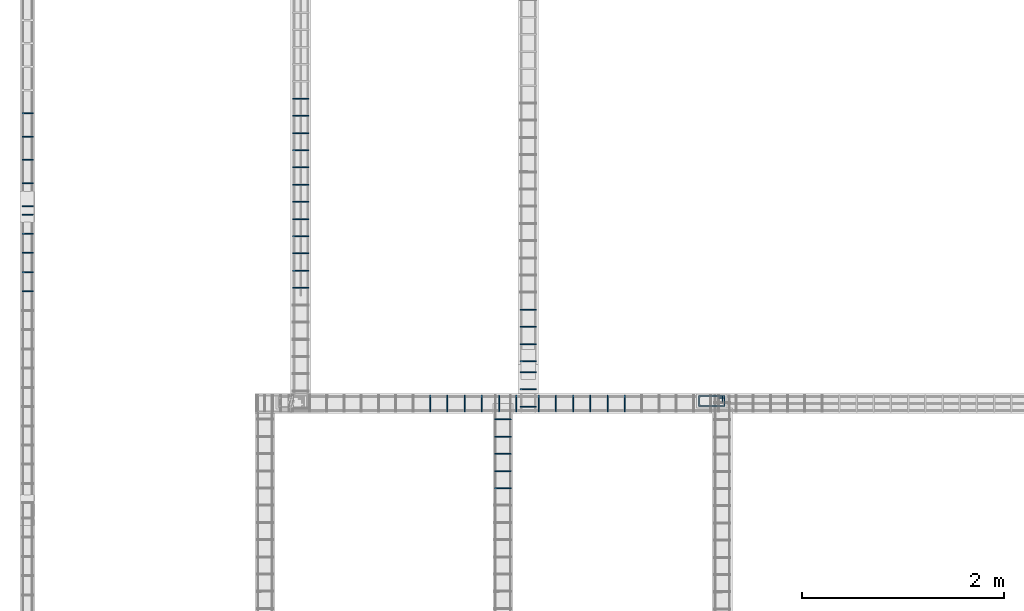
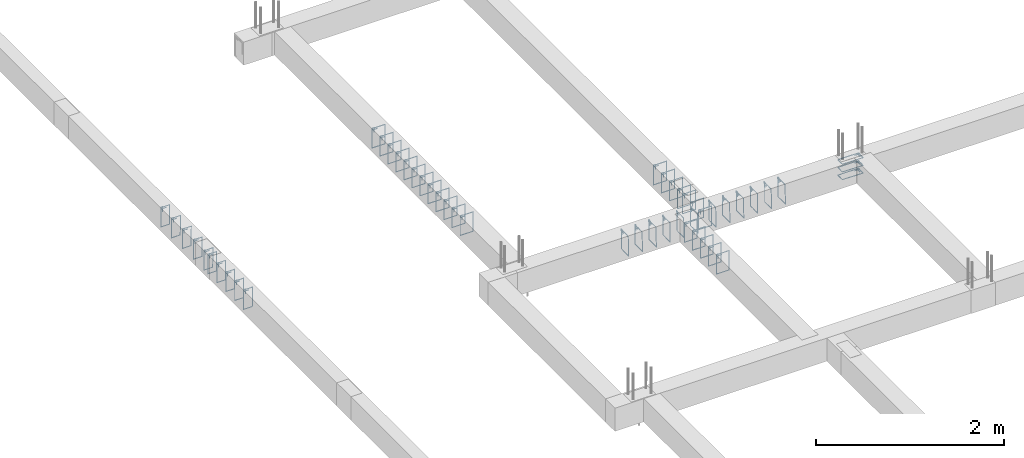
# One storey, part 30 of 150: 49 reinforcing bars.
"""IFC4 building model written with IfcOpenShell, lengths in centimetres."""

from ifc_helpers import new_model, entity, si_unit, derived_unit, frame, origin_with_axes, place, context, project, spatial, source, transform, mapped, element, save


model = new_model("IFC4")

# Units and contexts
model_context = context("Model", 3, precision=1e-05, world=origin_with_axes(), identifier="Body")
ifc_project = project(units=[si_unit("LENGTHUNIT", "METRE", prefix="CENTI"), si_unit("VOLUMEUNIT", "CUBIC_METRE"), si_unit("AREAUNIT", "SQUARE_METRE"), si_unit("POWERUNIT", "WATT"), si_unit("LUMINOUSFLUXUNIT", "LUMEN"), si_unit("ELECTRICCURRENTUNIT", "AMPERE"), si_unit("PRESSUREUNIT", "PASCAL", prefix="KILO"), si_unit("MASSUNIT", "GRAM", prefix="KILO"), si_unit("PLANEANGLEUNIT", "RADIAN"), derived_unit("VOLUMETRICFLOWRATEUNIT", [(si_unit("LENGTHUNIT", "METRE"), 3), (si_unit("TIMEUNIT", "SECOND"), -1)])], contexts=[model_context])

# Site, building, storey
site_placement = place(None, frame((-4000.0, 0.0, 0.0), z_axis=(0.0, 0.0, 1.0), x_axis=(1.0, 0.0, 0.0)))
site = spatial("IfcSite", under=ifc_project, at=site_placement, Name="PADRÃO")
building_placement = place(site_placement, frame((0.0, 0.0, -14.0)))
building = spatial("IfcBuilding", under=site, at=building_placement, Name="CRECHE PRÉ-ESCOLA TIPO 2")
placement = place(building_placement, origin_with_axes())
storey_placement = place(placement, frame((0.0, 0.0, 30.0), z_axis=(0.0, 0.0, 1.0), x_axis=(1.0, 0.0, 0.0)))
storey = spatial("IfcBuildingStorey", under=building, at=storey_placement, Name="VIGA BALDRAME", CompositionType="ELEMENT", Elevation=16.0)

# Reinforcing bars
shared_shape_1 = source(origin_with_axes(), model_context, "Body", "AdvancedSweptSolid", [
    entity("IfcSweptDiskSolid", entity("IfcCompositeCurve", [entity("IfcCompositeCurveSegment", "CONTINUOUS", True, entity("IfcPolyline", [entity("IfcCartesianPoint", [4.25, 21.75, 0.0]), entity("IfcCartesianPoint", [4.25, 27.75, 0.0])])), entity("IfcCompositeCurveSegment", "CONTINUOUS", True, entity("IfcPolyline", [entity("IfcCartesianPoint", [4.25, 27.75, 0.0]), entity("IfcCartesianPoint", [2.25, 27.75, 0.0])])), entity("IfcCompositeCurveSegment", "CONTINUOUS", True, entity("IfcPolyline", [entity("IfcCartesianPoint", [2.25, 27.75, 0.0]), entity("IfcCartesianPoint", [2.25, 2.25, 0.0])])), entity("IfcCompositeCurveSegment", "CONTINUOUS", True, entity("IfcPolyline", [entity("IfcCartesianPoint", [2.25, 2.25, 0.0]), entity("IfcCartesianPoint", [11.75, 2.25, 0.0])])), entity("IfcCompositeCurveSegment", "CONTINUOUS", True, entity("IfcPolyline", [entity("IfcCartesianPoint", [11.75, 2.25, 0.0]), entity("IfcCartesianPoint", [11.75, 27.75, -0.5])])), entity("IfcCompositeCurveSegment", "CONTINUOUS", True, entity("IfcPolyline", [entity("IfcCartesianPoint", [11.75, 27.75, -0.5]), entity("IfcCartesianPoint", [2.25, 27.75, -0.5])])), entity("IfcCompositeCurveSegment", "CONTINUOUS", True, entity("IfcPolyline", [entity("IfcCartesianPoint", [2.25, 27.75, -0.5]), entity("IfcCartesianPoint", [2.25, 25.75, -0.5])])), entity("IfcCompositeCurveSegment", "CONTINUOUS", True, entity("IfcPolyline", [entity("IfcCartesianPoint", [2.25, 25.75, -0.5]), entity("IfcCartesianPoint", [8.25, 25.75, -0.5])]))], False), 0.25),
])
for number, where, z_axis, x_axis, name in (
    (1, (670.0, 1309.5, -25.0), (0.0, 0.0, 1.0), (0.0, -1.0, 0.0), "P108 - Estribo"),
    (2, (670.0, 1309.5, -15.0), (0.0, 0.0, 1.0), (0.0, -1.0, 0.0), "P108 - Estribo"),
    (3, (670.0, 1309.5, -5.0), (0.0, 0.0, 1.0), (0.0, -1.0, 0.0), "P108 - Estribo"),
):
    element("IfcReinforcingBar", number, at=place(storey_placement, frame(where, z_axis=z_axis, x_axis=x_axis)), inside=storey, Name=name, BarLength=0.0, CrossSectionArea=1.9634954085e-05, NominalDiameter=0.5, PredefinedType="MAIN", context=model_context, shape_type="MappedRepresentation", body=[
        mapped(shared_shape_1, transform((0.0, 0.0, 0.0), scale=1.0)),
    ])
shared_shape_2 = source(origin_with_axes(), model_context, "Body", "AdvancedSweptSolid", [
    entity("IfcSweptDiskSolid", entity("IfcCompositeCurve", [entity("IfcCompositeCurveSegment", "CONTINUOUS", True, entity("IfcPolyline", [entity("IfcCartesianPoint", [2.0, -6.0, 0.0]), entity("IfcCartesianPoint", [2.0, 0.0, 0.0])])), entity("IfcCompositeCurveSegment", "CONTINUOUS", True, entity("IfcPolyline", [entity("IfcCartesianPoint", [2.0, 0.0, 0.0]), entity("IfcCartesianPoint", [0.0, 0.0, 0.0])])), entity("IfcCompositeCurveSegment", "CONTINUOUS", True, entity("IfcPolyline", [entity("IfcCartesianPoint", [0.0, 0.0, 0.0]), entity("IfcCartesianPoint", [0.0, -25.5, 0.0])])), entity("IfcCompositeCurveSegment", "CONTINUOUS", True, entity("IfcPolyline", [entity("IfcCartesianPoint", [0.0, -25.5, 0.0]), entity("IfcCartesianPoint", [15.5, -25.5, 0.0])])), entity("IfcCompositeCurveSegment", "CONTINUOUS", True, entity("IfcPolyline", [entity("IfcCartesianPoint", [15.5, -25.5, 0.0]), entity("IfcCartesianPoint", [15.5, 0.0, 0.5])])), entity("IfcCompositeCurveSegment", "CONTINUOUS", True, entity("IfcPolyline", [entity("IfcCartesianPoint", [15.5, 0.0, 0.5]), entity("IfcCartesianPoint", [0.0, 0.0, 0.5])])), entity("IfcCompositeCurveSegment", "CONTINUOUS", True, entity("IfcPolyline", [entity("IfcCartesianPoint", [0.0, 0.0, 0.5]), entity("IfcCartesianPoint", [0.0, -2.0, 0.5])])), entity("IfcCompositeCurveSegment", "CONTINUOUS", True, entity("IfcPolyline", [entity("IfcCartesianPoint", [0.0, -2.0, 0.5]), entity("IfcCartesianPoint", [6.0, -2.0, 0.5])]))], False), 0.25),
])
for number, where, z_axis, x_axis, name in (
    (4, (458.095, 1307.75, -2.25), (-1.0, 0.0, 0.0), (0.0, -1.0, 0.0), "V136 - Estribo"),
    (5, (441.095, 1307.75, -2.25), (-1.0, 0.0, 0.0), (0.0, -1.0, 0.0), "V136 - Estribo"),
    (6, (424.095, 1307.75, -2.25), (-1.0, 0.0, 0.0), (0.0, -1.0, 0.0), "V136 - Estribo"),
    (7, (407.095, 1307.75, -2.25), (-1.0, 0.0, 0.0), (0.0, -1.0, 0.0), "V136 - Estribo"),
    (8, (492.095, 1307.75, -2.25), (-1.0, 0.0, 0.0), (0.0, -1.0, 0.0), "V136 - Estribo"),
    (9, (475.095, 1307.75, -2.25), (-1.0, 0.0, 0.0), (0.0, -1.0, 0.0), "V136 - Estribo"),
):
    element("IfcReinforcingBar", number, at=place(storey_placement, frame(where, z_axis=z_axis, x_axis=x_axis)), inside=storey, Name=name, BarLength=0.0, CrossSectionArea=1.9634954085e-05, NominalDiameter=0.5, PredefinedType="MAIN", context=model_context, shape_type="MappedRepresentation", body=[
        mapped(shared_shape_2, transform((0.0, 0.0, 0.0), scale=1.0)),
    ])
shared_shape_3 = source(origin_with_axes(), model_context, "Body", "AdvancedSweptSolid", [
    entity("IfcSweptDiskSolid", entity("IfcCompositeCurve", [entity("IfcCompositeCurveSegment", "CONTINUOUS", True, entity("IfcPolyline", [entity("IfcCartesianPoint", [2.0, -6.0, 0.0]), entity("IfcCartesianPoint", [2.0, 0.0, 0.0])])), entity("IfcCompositeCurveSegment", "CONTINUOUS", True, entity("IfcPolyline", [entity("IfcCartesianPoint", [2.0, 0.0, 0.0]), entity("IfcCartesianPoint", [0.0, 0.0, 0.0])])), entity("IfcCompositeCurveSegment", "CONTINUOUS", True, entity("IfcPolyline", [entity("IfcCartesianPoint", [0.0, 0.0, 0.0]), entity("IfcCartesianPoint", [0.0, -25.5, 0.0])])), entity("IfcCompositeCurveSegment", "CONTINUOUS", True, entity("IfcPolyline", [entity("IfcCartesianPoint", [0.0, -25.5, 0.0]), entity("IfcCartesianPoint", [15.5, -25.5, 0.0])])), entity("IfcCompositeCurveSegment", "CONTINUOUS", True, entity("IfcPolyline", [entity("IfcCartesianPoint", [15.5, -25.5, 0.0]), entity("IfcCartesianPoint", [15.5, 0.0, 0.5])])), entity("IfcCompositeCurveSegment", "CONTINUOUS", True, entity("IfcPolyline", [entity("IfcCartesianPoint", [15.5, 0.0, 0.5]), entity("IfcCartesianPoint", [0.0, 0.0, 0.5])])), entity("IfcCompositeCurveSegment", "CONTINUOUS", True, entity("IfcPolyline", [entity("IfcCartesianPoint", [0.0, 0.0, 0.5]), entity("IfcCartesianPoint", [0.0, -2.0, 0.5])])), entity("IfcCompositeCurveSegment", "CONTINUOUS", True, entity("IfcPolyline", [entity("IfcCartesianPoint", [0.0, -2.0, 0.5]), entity("IfcCartesianPoint", [6.0, -2.0, 0.5])]))], False), 0.25),
])
for number, where, z_axis, x_axis, name in (
    (10, (548.345, 1307.75, -2.25), (-1.0, 0.0, 0.0), (0.0, -1.0, 0.0), "V136 - Estribo"),
    (11, (599.345, 1307.75, -2.25), (-1.0, 0.0, 0.0), (0.0, -1.0, 0.0), "V136 - Estribo"),
    (12, (582.345, 1307.75, -2.25), (-1.0, 0.0, 0.0), (0.0, -1.0, 0.0), "V136 - Estribo"),
    (13, (565.345, 1307.75, -2.25), (-1.0, 0.0, 0.0), (0.0, -1.0, 0.0), "V136 - Estribo"),
    (14, (531.345, 1307.75, -2.25), (-1.0, 0.0, 0.0), (0.0, -1.0, 0.0), "V136 - Estribo"),
    (15, (514.345, 1307.75, -2.25), (-1.0, 0.0, 0.0), (0.0, -1.0, 0.0), "V136 - Estribo"),
):
    element("IfcReinforcingBar", number, at=place(storey_placement, frame(where, z_axis=z_axis, x_axis=x_axis)), inside=storey, Name=name, BarLength=0.0, CrossSectionArea=1.9634954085e-05, NominalDiameter=0.5, PredefinedType="MAIN", context=model_context, shape_type="MappedRepresentation", body=[
        mapped(shared_shape_3, transform((0.0, 0.0, 0.0), scale=1.0)),
    ])
shared_shape_4 = source(origin_with_axes(), model_context, "Body", "AdvancedSweptSolid", [
    entity("IfcSweptDiskSolid", entity("IfcCompositeCurve", [entity("IfcCompositeCurveSegment", "CONTINUOUS", True, entity("IfcPolyline", [entity("IfcCartesianPoint", [2.0, -6.0, 0.0]), entity("IfcCartesianPoint", [2.0, 0.0, 0.0])])), entity("IfcCompositeCurveSegment", "CONTINUOUS", True, entity("IfcPolyline", [entity("IfcCartesianPoint", [2.0, 0.0, 0.0]), entity("IfcCartesianPoint", [0.0, 0.0, 0.0])])), entity("IfcCompositeCurveSegment", "CONTINUOUS", True, entity("IfcPolyline", [entity("IfcCartesianPoint", [0.0, 0.0, 0.0]), entity("IfcCartesianPoint", [0.0, -25.5, 0.0])])), entity("IfcCompositeCurveSegment", "CONTINUOUS", True, entity("IfcPolyline", [entity("IfcCartesianPoint", [0.0, -25.5, 0.0]), entity("IfcCartesianPoint", [15.5, -25.5, 0.0])])), entity("IfcCompositeCurveSegment", "CONTINUOUS", True, entity("IfcPolyline", [entity("IfcCartesianPoint", [15.5, -25.5, 0.0]), entity("IfcCartesianPoint", [15.5, 0.0, 0.5])])), entity("IfcCompositeCurveSegment", "CONTINUOUS", True, entity("IfcPolyline", [entity("IfcCartesianPoint", [15.5, 0.0, 0.5]), entity("IfcCartesianPoint", [0.0, 0.0, 0.5])])), entity("IfcCompositeCurveSegment", "CONTINUOUS", True, entity("IfcPolyline", [entity("IfcCartesianPoint", [0.0, 0.0, 0.5]), entity("IfcCartesianPoint", [0.0, -2.0, 0.5])])), entity("IfcCompositeCurveSegment", "CONTINUOUS", True, entity("IfcPolyline", [entity("IfcCartesianPoint", [0.0, -2.0, 0.5]), entity("IfcCartesianPoint", [6.0, -2.0, 0.5])]))], False), 0.25),
])
for number, where, z_axis, x_axis, name in (
    (16, (470.94, 1250.5, -2.25), (0.0, -1.0, 0.0), (1.0, 0.0, 0.0), "V168 - Estribo"),
    (17, (470.94, 1233.5, -2.25), (0.0, -1.0, 0.0), (1.0, 0.0, 0.0), "V168 - Estribo"),
    (18, (470.94, 1216.5, -2.25), (0.0, -1.0, 0.0), (1.0, 0.0, 0.0), "V168 - Estribo"),
    (19, (470.94, 1284.5, -2.25), (0.0, -1.0, 0.0), (1.0, 0.0, 0.0), "V168 - Estribo"),
    (20, (470.94, 1267.5, -2.25), (0.0, -1.0, 0.0), (1.0, 0.0, 0.0), "V168 - Estribo"),
):
    element("IfcReinforcingBar", number, at=place(storey_placement, frame(where, z_axis=z_axis, x_axis=x_axis)), inside=storey, Name=name, BarLength=0.0, CrossSectionArea=1.9634954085e-05, NominalDiameter=0.5, PredefinedType="MAIN", context=model_context, shape_type="MappedRepresentation", body=[
        mapped(shared_shape_4, transform((0.0, 0.0, 0.0), scale=1.0)),
    ])
shared_shape_5 = source(origin_with_axes(), model_context, "Body", "AdvancedSweptSolid", [
    entity("IfcSweptDiskSolid", entity("IfcCompositeCurve", [entity("IfcCompositeCurveSegment", "CONTINUOUS", True, entity("IfcPolyline", [entity("IfcCartesianPoint", [2.0, -6.0, 0.0]), entity("IfcCartesianPoint", [2.0, 0.0, 0.0])])), entity("IfcCompositeCurveSegment", "CONTINUOUS", True, entity("IfcPolyline", [entity("IfcCartesianPoint", [2.0, 0.0, 0.0]), entity("IfcCartesianPoint", [0.0, 0.0, 0.0])])), entity("IfcCompositeCurveSegment", "CONTINUOUS", True, entity("IfcPolyline", [entity("IfcCartesianPoint", [0.0, 0.0, 0.0]), entity("IfcCartesianPoint", [0.0, -25.5, 0.0])])), entity("IfcCompositeCurveSegment", "CONTINUOUS", True, entity("IfcPolyline", [entity("IfcCartesianPoint", [0.0, -25.5, 0.0]), entity("IfcCartesianPoint", [15.5, -25.5, 0.0])])), entity("IfcCompositeCurveSegment", "CONTINUOUS", True, entity("IfcPolyline", [entity("IfcCartesianPoint", [15.5, -25.5, 0.0]), entity("IfcCartesianPoint", [15.5, 0.0, 0.5])])), entity("IfcCompositeCurveSegment", "CONTINUOUS", True, entity("IfcPolyline", [entity("IfcCartesianPoint", [15.5, 0.0, 0.5]), entity("IfcCartesianPoint", [0.0, 0.0, 0.5])])), entity("IfcCompositeCurveSegment", "CONTINUOUS", True, entity("IfcPolyline", [entity("IfcCartesianPoint", [0.0, 0.0, 0.5]), entity("IfcCartesianPoint", [0.0, -2.0, 0.5])])), entity("IfcCompositeCurveSegment", "CONTINUOUS", True, entity("IfcPolyline", [entity("IfcCartesianPoint", [0.0, -2.0, 0.5]), entity("IfcCartesianPoint", [6.0, -2.0, 0.5])]))], False), 0.25),
])
for number, where, z_axis, x_axis, name in (
    (21, (271.25, 1550.5, -2.25), (0.0, -1.0, 0.0), (1.0, 0.0, 0.0), "V162 - Estribo"),
    (22, (271.25, 1533.5, -2.25), (0.0, -1.0, 0.0), (1.0, 0.0, 0.0), "V162 - Estribo"),
    (23, (271.25, 1516.5, -2.25), (0.0, -1.0, 0.0), (1.0, 0.0, 0.0), "V162 - Estribo"),
    (24, (271.25, 1499.5, -2.25), (0.0, -1.0, 0.0), (1.0, 0.0, 0.0), "V162 - Estribo"),
    (25, (271.25, 1601.5, -2.25), (0.0, -1.0, 0.0), (1.0, 0.0, 0.0), "V162 - Estribo"),
    (26, (271.25, 1584.5, -2.25), (0.0, -1.0, 0.0), (1.0, 0.0, 0.0), "V162 - Estribo"),
    (27, (271.25, 1567.5, -2.25), (0.0, -1.0, 0.0), (1.0, 0.0, 0.0), "V162 - Estribo"),
    (28, (271.25, 1482.5, -2.25), (0.0, -1.0, 0.0), (1.0, 0.0, 0.0), "V162 - Estribo"),
    (29, (271.25, 1465.5, -2.25), (0.0, -1.0, 0.0), (1.0, 0.0, 0.0), "V162 - Estribo"),
    (30, (271.25, 1448.5, -2.25), (0.0, -1.0, 0.0), (1.0, 0.0, 0.0), "V162 - Estribo"),
    (31, (271.25, 1431.5, -2.25), (0.0, -1.0, 0.0), (1.0, 0.0, 0.0), "V162 - Estribo"),
    (32, (271.25, 1414.5, -2.25), (0.0, -1.0, 0.0), (1.0, 0.0, 0.0), "V162 - Estribo"),
):
    element("IfcReinforcingBar", number, at=place(storey_placement, frame(where, z_axis=z_axis, x_axis=x_axis)), inside=storey, Name=name, BarLength=0.0, CrossSectionArea=1.9634954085e-05, NominalDiameter=0.5, PredefinedType="MAIN", context=model_context, shape_type="MappedRepresentation", body=[
        mapped(shared_shape_5, transform((0.0, 0.0, 0.0), scale=1.0)),
    ])
shared_shape_6 = source(origin_with_axes(), model_context, "Body", "AdvancedSweptSolid", [
    entity("IfcSweptDiskSolid", entity("IfcCompositeCurve", [entity("IfcCompositeCurveSegment", "CONTINUOUS", True, entity("IfcPolyline", [entity("IfcCartesianPoint", [2.0, -6.0, 0.0]), entity("IfcCartesianPoint", [2.0, 0.0, 0.0])])), entity("IfcCompositeCurveSegment", "CONTINUOUS", True, entity("IfcPolyline", [entity("IfcCartesianPoint", [2.0, 0.0, 0.0]), entity("IfcCartesianPoint", [0.0, 0.0, 0.0])])), entity("IfcCompositeCurveSegment", "CONTINUOUS", True, entity("IfcPolyline", [entity("IfcCartesianPoint", [0.0, 0.0, 0.0]), entity("IfcCartesianPoint", [0.0, -25.5, 0.0])])), entity("IfcCompositeCurveSegment", "CONTINUOUS", True, entity("IfcPolyline", [entity("IfcCartesianPoint", [0.0, -25.5, 0.0]), entity("IfcCartesianPoint", [15.5, -25.5, 0.0])])), entity("IfcCompositeCurveSegment", "CONTINUOUS", True, entity("IfcPolyline", [entity("IfcCartesianPoint", [15.5, -25.5, 0.0]), entity("IfcCartesianPoint", [15.5, 0.0, 0.5])])), entity("IfcCompositeCurveSegment", "CONTINUOUS", True, entity("IfcPolyline", [entity("IfcCartesianPoint", [15.5, 0.0, 0.5]), entity("IfcCartesianPoint", [0.0, 0.0, 0.5])])), entity("IfcCompositeCurveSegment", "CONTINUOUS", True, entity("IfcPolyline", [entity("IfcCartesianPoint", [0.0, 0.0, 0.5]), entity("IfcCartesianPoint", [0.0, -2.0, 0.5])])), entity("IfcCompositeCurveSegment", "CONTINUOUS", True, entity("IfcPolyline", [entity("IfcCartesianPoint", [0.0, -2.0, 0.5]), entity("IfcCartesianPoint", [6.0, -2.0, 0.5])]))], False), 0.25),
])
for number, where, z_axis, x_axis, name in (
    (33, (495.94, 1331.255, -2.25), (0.0, -1.0, 0.0), (1.0, 0.0, 0.0), "V171 - Estribo"),
    (34, (495.94, 1314.255, -2.25), (0.0, -1.0, 0.0), (1.0, 0.0, 0.0), "V171 - Estribo"),
    (35, (495.94, 1297.255, -2.25), (0.0, -1.0, 0.0), (1.0, 0.0, 0.0), "V171 - Estribo"),
):
    element("IfcReinforcingBar", number, at=place(storey_placement, frame(where, z_axis=z_axis, x_axis=x_axis)), inside=storey, Name=name, BarLength=0.0, CrossSectionArea=1.9634954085e-05, NominalDiameter=0.5, PredefinedType="MAIN", context=model_context, shape_type="MappedRepresentation", body=[
        mapped(shared_shape_6, transform((0.0, 0.0, 0.0), scale=1.0)),
    ])
shared_shape_7 = source(origin_with_axes(), model_context, "Body", "AdvancedSweptSolid", [
    entity("IfcSweptDiskSolid", entity("IfcCompositeCurve", [entity("IfcCompositeCurveSegment", "CONTINUOUS", True, entity("IfcPolyline", [entity("IfcCartesianPoint", [2.0, -6.0, 0.0]), entity("IfcCartesianPoint", [2.0, 0.0, 0.0])])), entity("IfcCompositeCurveSegment", "CONTINUOUS", True, entity("IfcPolyline", [entity("IfcCartesianPoint", [2.0, 0.0, 0.0]), entity("IfcCartesianPoint", [0.0, 0.0, 0.0])])), entity("IfcCompositeCurveSegment", "CONTINUOUS", True, entity("IfcPolyline", [entity("IfcCartesianPoint", [0.0, 0.0, 0.0]), entity("IfcCartesianPoint", [0.0, -25.5, 0.0])])), entity("IfcCompositeCurveSegment", "CONTINUOUS", True, entity("IfcPolyline", [entity("IfcCartesianPoint", [0.0, -25.5, 0.0]), entity("IfcCartesianPoint", [15.5, -25.5, 0.0])])), entity("IfcCompositeCurveSegment", "CONTINUOUS", True, entity("IfcPolyline", [entity("IfcCartesianPoint", [15.5, -25.5, 0.0]), entity("IfcCartesianPoint", [15.5, 0.0, 0.5])])), entity("IfcCompositeCurveSegment", "CONTINUOUS", True, entity("IfcPolyline", [entity("IfcCartesianPoint", [15.5, 0.0, 0.5]), entity("IfcCartesianPoint", [0.0, 0.0, 0.5])])), entity("IfcCompositeCurveSegment", "CONTINUOUS", True, entity("IfcPolyline", [entity("IfcCartesianPoint", [0.0, 0.0, 0.5]), entity("IfcCartesianPoint", [0.0, -2.0, 0.5])])), entity("IfcCompositeCurveSegment", "CONTINUOUS", True, entity("IfcPolyline", [entity("IfcCartesianPoint", [0.0, -2.0, 0.5]), entity("IfcCartesianPoint", [6.0, -2.0, 0.5])]))], False), 0.25),
])
for number, where, z_axis, x_axis, name in (
    (36, (495.94, 1393.005, -2.25), (0.0, -1.0, 0.0), (1.0, 0.0, 0.0), "V171 - Estribo"),
    (37, (495.94, 1376.005, -2.25), (0.0, -1.0, 0.0), (1.0, 0.0, 0.0), "V171 - Estribo"),
    (38, (495.94, 1359.005, -2.25), (0.0, -1.0, 0.0), (1.0, 0.0, 0.0), "V171 - Estribo"),
    (39, (495.94, 1342.005, -2.25), (0.0, -1.0, 0.0), (1.0, 0.0, 0.0), "V171 - Estribo"),
):
    element("IfcReinforcingBar", number, at=place(storey_placement, frame(where, z_axis=z_axis, x_axis=x_axis)), inside=storey, Name=name, BarLength=0.0, CrossSectionArea=1.9634954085e-05, NominalDiameter=0.5, PredefinedType="MAIN", context=model_context, shape_type="MappedRepresentation", body=[
        mapped(shared_shape_7, transform((0.0, 0.0, 0.0), scale=1.0)),
    ])
shared_shape_8 = source(origin_with_axes(), model_context, "Body", "AdvancedSweptSolid", [
    entity("IfcSweptDiskSolid", entity("IfcCompositeCurve", [entity("IfcCompositeCurveSegment", "CONTINUOUS", True, entity("IfcPolyline", [entity("IfcCartesianPoint", [2.0, -6.0, 0.0]), entity("IfcCartesianPoint", [2.0, 0.0, 0.0])])), entity("IfcCompositeCurveSegment", "CONTINUOUS", True, entity("IfcPolyline", [entity("IfcCartesianPoint", [2.0, 0.0, 0.0]), entity("IfcCartesianPoint", [0.0, 0.0, 0.0])])), entity("IfcCompositeCurveSegment", "CONTINUOUS", True, entity("IfcPolyline", [entity("IfcCartesianPoint", [0.0, 0.0, 0.0]), entity("IfcCartesianPoint", [0.0, -25.5, 0.0])])), entity("IfcCompositeCurveSegment", "CONTINUOUS", True, entity("IfcPolyline", [entity("IfcCartesianPoint", [0.0, -25.5, 0.0]), entity("IfcCartesianPoint", [10.5, -25.5, 0.0])])), entity("IfcCompositeCurveSegment", "CONTINUOUS", True, entity("IfcPolyline", [entity("IfcCartesianPoint", [10.5, -25.5, 0.0]), entity("IfcCartesianPoint", [10.5, 0.0, 0.5])])), entity("IfcCompositeCurveSegment", "CONTINUOUS", True, entity("IfcPolyline", [entity("IfcCartesianPoint", [10.5, 0.0, 0.5]), entity("IfcCartesianPoint", [0.0, 0.0, 0.5])])), entity("IfcCompositeCurveSegment", "CONTINUOUS", True, entity("IfcPolyline", [entity("IfcCartesianPoint", [0.0, 0.0, 0.5]), entity("IfcCartesianPoint", [0.0, -2.0, 0.5])])), entity("IfcCompositeCurveSegment", "CONTINUOUS", True, entity("IfcPolyline", [entity("IfcCartesianPoint", [0.0, -2.0, 0.5]), entity("IfcCartesianPoint", [6.0, -2.0, 0.5])]))], False), 0.25),
])
for number, where, z_axis, x_axis, name in (
    (40, (3.75, 1411.0, -2.25), (0.0, -1.0, 0.0), (1.0, 0.0, 0.0), "V159 - Estribo"),
    (41, (3.75, 1430.0, -2.25), (0.0, -1.0, 0.0), (1.0, 0.0, 0.0), "V159 - Estribo"),
    (42, (3.75, 1449.0, -2.25), (0.0, -1.0, 0.0), (1.0, 0.0, 0.0), "V159 - Estribo"),
    (43, (3.75, 1468.0, -2.25), (0.0, -1.0, 0.0), (1.0, 0.0, 0.0), "V159 - Estribo"),
    (44, (3.75, 1487.0, -2.25), (0.0, -1.0, 0.0), (1.0, 0.0, 0.0), "V159 - Estribo"),
):
    element("IfcReinforcingBar", number, at=place(storey_placement, frame(where, z_axis=z_axis, x_axis=x_axis)), inside=storey, Name=name, BarLength=0.0, CrossSectionArea=1.9634954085e-05, NominalDiameter=0.5, PredefinedType="MAIN", context=model_context, shape_type="MappedRepresentation", body=[
        mapped(shared_shape_8, transform((0.0, 0.0, 0.0), scale=1.0)),
    ])
shared_shape_9 = source(origin_with_axes(), model_context, "Body", "AdvancedSweptSolid", [
    entity("IfcSweptDiskSolid", entity("IfcCompositeCurve", [entity("IfcCompositeCurveSegment", "CONTINUOUS", True, entity("IfcPolyline", [entity("IfcCartesianPoint", [2.0, -6.0, 0.0]), entity("IfcCartesianPoint", [2.0, 0.0, 0.0])])), entity("IfcCompositeCurveSegment", "CONTINUOUS", True, entity("IfcPolyline", [entity("IfcCartesianPoint", [2.0, 0.0, 0.0]), entity("IfcCartesianPoint", [0.0, 0.0, 0.0])])), entity("IfcCompositeCurveSegment", "CONTINUOUS", True, entity("IfcPolyline", [entity("IfcCartesianPoint", [0.0, 0.0, 0.0]), entity("IfcCartesianPoint", [0.0, -25.5, 0.0])])), entity("IfcCompositeCurveSegment", "CONTINUOUS", True, entity("IfcPolyline", [entity("IfcCartesianPoint", [0.0, -25.5, 0.0]), entity("IfcCartesianPoint", [10.5, -25.5, 0.0])])), entity("IfcCompositeCurveSegment", "CONTINUOUS", True, entity("IfcPolyline", [entity("IfcCartesianPoint", [10.5, -25.5, 0.0]), entity("IfcCartesianPoint", [10.5, 0.0, 0.5])])), entity("IfcCompositeCurveSegment", "CONTINUOUS", True, entity("IfcPolyline", [entity("IfcCartesianPoint", [10.5, 0.0, 0.5]), entity("IfcCartesianPoint", [0.0, 0.0, 0.5])])), entity("IfcCompositeCurveSegment", "CONTINUOUS", True, entity("IfcPolyline", [entity("IfcCartesianPoint", [0.0, 0.0, 0.5]), entity("IfcCartesianPoint", [0.0, -2.0, 0.5])])), entity("IfcCompositeCurveSegment", "CONTINUOUS", True, entity("IfcPolyline", [entity("IfcCartesianPoint", [0.0, -2.0, 0.5]), entity("IfcCartesianPoint", [6.0, -2.0, 0.5])]))], False), 0.25),
])
for number, where, z_axis, x_axis, name in (
    (45, (3.75, 1495.0, -2.25), (0.0, -1.0, 0.0), (1.0, 0.0, 0.0), "V159 - Estribo"),
    (46, (3.75, 1518.0, -2.25), (0.0, -1.0, 0.0), (1.0, 0.0, 0.0), "V159 - Estribo"),
    (47, (3.75, 1541.0, -2.25), (0.0, -1.0, 0.0), (1.0, 0.0, 0.0), "V159 - Estribo"),
    (48, (3.75, 1564.0, -2.25), (0.0, -1.0, 0.0), (1.0, 0.0, 0.0), "V159 - Estribo"),
    (49, (3.75, 1587.0, -2.25), (0.0, -1.0, 0.0), (1.0, 0.0, 0.0), "V159 - Estribo"),
):
    element("IfcReinforcingBar", number, at=place(storey_placement, frame(where, z_axis=z_axis, x_axis=x_axis)), inside=storey, Name=name, BarLength=0.0, CrossSectionArea=1.9634954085e-05, NominalDiameter=0.5, PredefinedType="MAIN", context=model_context, shape_type="MappedRepresentation", body=[
        mapped(shared_shape_9, transform((0.0, 0.0, 0.0), scale=1.0)),
    ])

save(model, "model.ifc")
